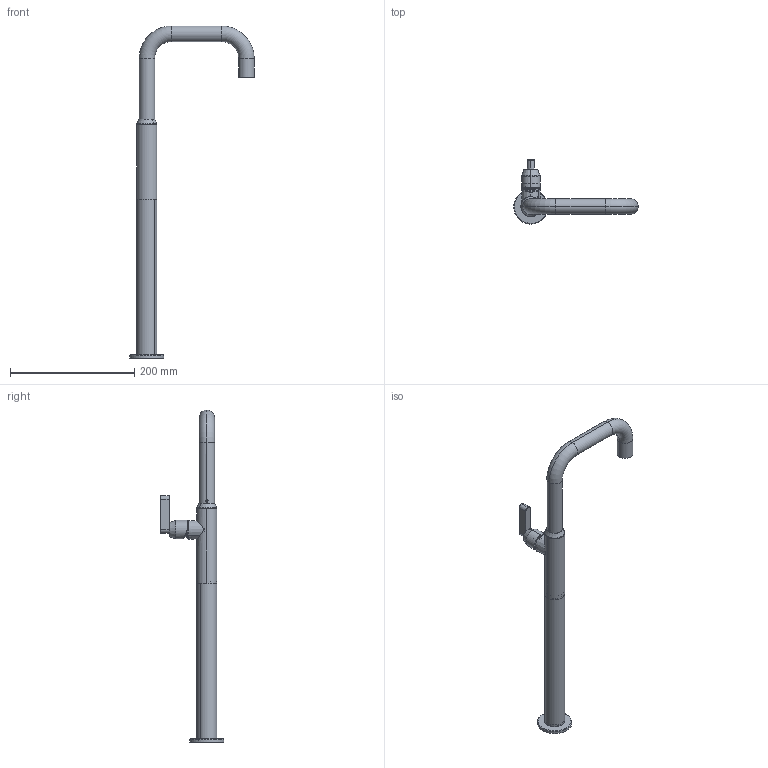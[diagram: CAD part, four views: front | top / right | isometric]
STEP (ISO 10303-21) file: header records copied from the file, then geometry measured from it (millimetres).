
FILE_DESCRIPTION (( 'STEP AP203' ), '1' );
FILE_NAME ('KOE52.STEP', '2019-06-10T13:23:03', ( '' ), ( '' ), 'SwSTEP 2.0', 'SolidWorks 2014', '' );
FILE_SCHEMA (( 'CONFIG_CONTROL_DESIGN' ));
Length unit declared in the file: millimetre
Products named in the file (24): OR1554262ACS; EU2041_0; SPININOX  ﾘ 1,5x6; TAPPHITO01; AS779_00; VITETC6X8; KOE52; EU0824_ZA; CARTBAG016; AS769_00; EU2033_0; EU0120_1; EU0119_2; EU1893_0; OR212ACS; GRANO M5x6; EU0371_2; GRANCO M4x4 ACCIAIO; EU1590_0; PROLMINARC_0; EU2040_0; EU0370_3; OR1717178ACS; EU2047_0
Assembly tree (24 placements, depth 4):
  KOE52
    AS769_00
      EU0370_3
      AS779_00
        EU2047_0
        EU2033_0
        VITETC6X8
        SPININOX  ﾘ 1,5x6
      EU0371_2
      CARTBAG016
      EU0120_1
      EU0119_2
      TAPPHITO01
      GRANO M5x6
      EU2041_0
      OR212ACS
      OR1554262ACS  x2
      EU1590_0
    GRANCO M4x4 ACCIAIO
    PROLMINARC_0
    EU0824_ZA
    OR1717178ACS
    EU1893_0
    EU2040_0
Bounding box: 199.99 x 102.5 x 533.47 mm (x, y, z)
Volume: 207689.2 mm3; surface area: 165876.8 mm2
Topology: 21 solids, 31 shells, 1202 faces, 3281 edges, 2126 vertices
Faces by surface type: cylinder 476, plane 388, cone 178, bspline 86, torus 74
Entity records: 45387 total; most frequent: CARTESIAN_POINT 13763, ORIENTED_EDGE 5986, DIRECTION 5979, EDGE_CURVE 3223, AXIS2_PLACEMENT_3D 2327, VERTEX_POINT 2110, VECTOR 1325, LINE 1325
